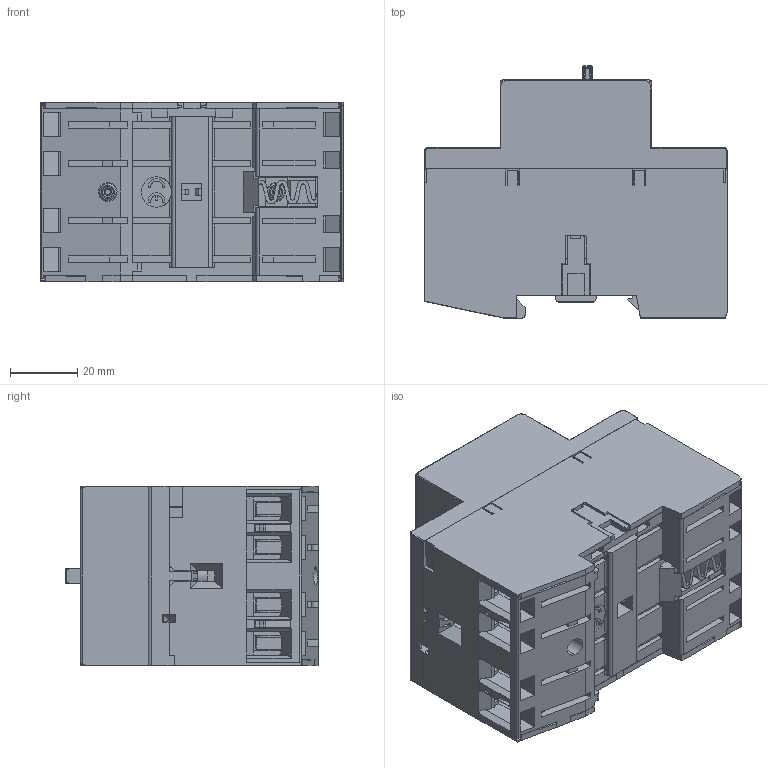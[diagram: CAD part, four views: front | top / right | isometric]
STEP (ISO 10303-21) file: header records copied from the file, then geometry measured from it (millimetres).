
FILE_DESCRIPTION (( 'STEP AP214' ), '1' );
FILE_NAME ('RSI_40_63_M.step', '2011-08-12T10:06:36', ( 'Radek Veselý' ), ( 'Siemens and Partners' ), 'SwSTEP 2.0', 'SolidWorks 2006303', '' );
FILE_SCHEMA (( 'AUTOMOTIVE_DESIGN' ));
Length unit declared in the file: millimetre
Products named in the file (1): RSI_40_63_M
Bounding box: 90.08 x 75.05 x 53.5 mm (x, y, z)
Volume: 101481.8 mm3; surface area: 112122.9 mm2
Topology: 18 solids, 21 shells, 3344 faces, 9440 edges, 6138 vertices
Faces by surface type: plane 2583, cylinder 484, bspline 166, cone 111
Entity records: 156278 total; most frequent: CARTESIAN_POINT 35199, ORIENTED_EDGE 18864, DIRECTION 15457, EDGE_CURVE 9432, VECTOR 7483, LINE 7483, VERTEX_POINT 6138, AXIS2_PLACEMENT_3D 3987
